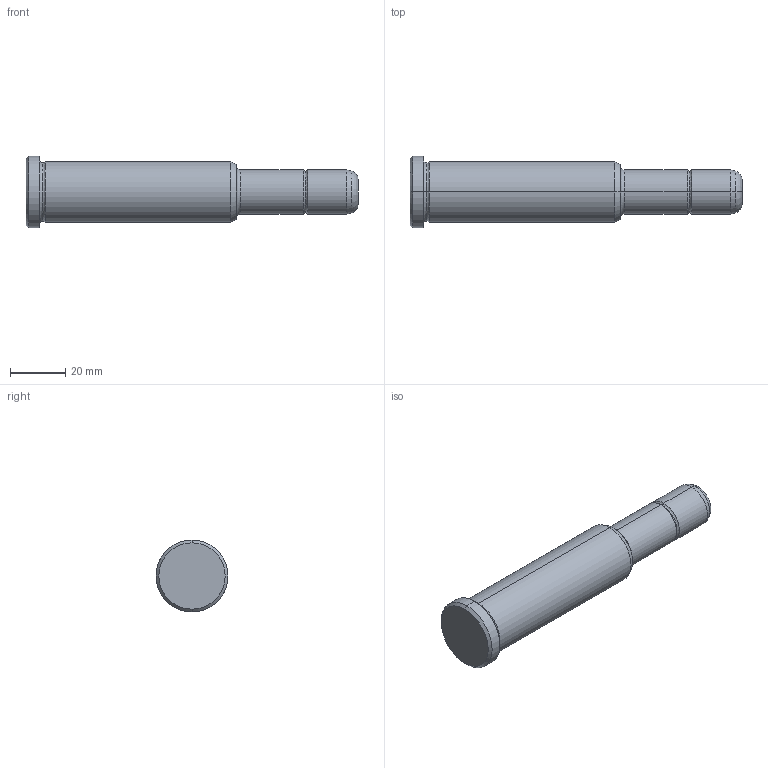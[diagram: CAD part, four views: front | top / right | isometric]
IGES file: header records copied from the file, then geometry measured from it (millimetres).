
Start section: START RECORD GO HERE.
Global section: file name: 351-16X76X120.igs; native system: DASSAULT SYSTEMES CATIA V5 R20 - www.3ds.com; preprocessor: CATIA Version 5 Release 20 ; author: Utente; organization: NB04-ASUS; date: 20210818.144931; units: millimetre
Bounding box: 120 x 26 x 26 mm (x, y, z)
Surface area: 8392.3 mm2 (no closed solid volume)
Topology: 0 solids, 0 shells, 30 faces, 172 edges, 172 vertices
Faces by surface type: revolution 26, plane 4
